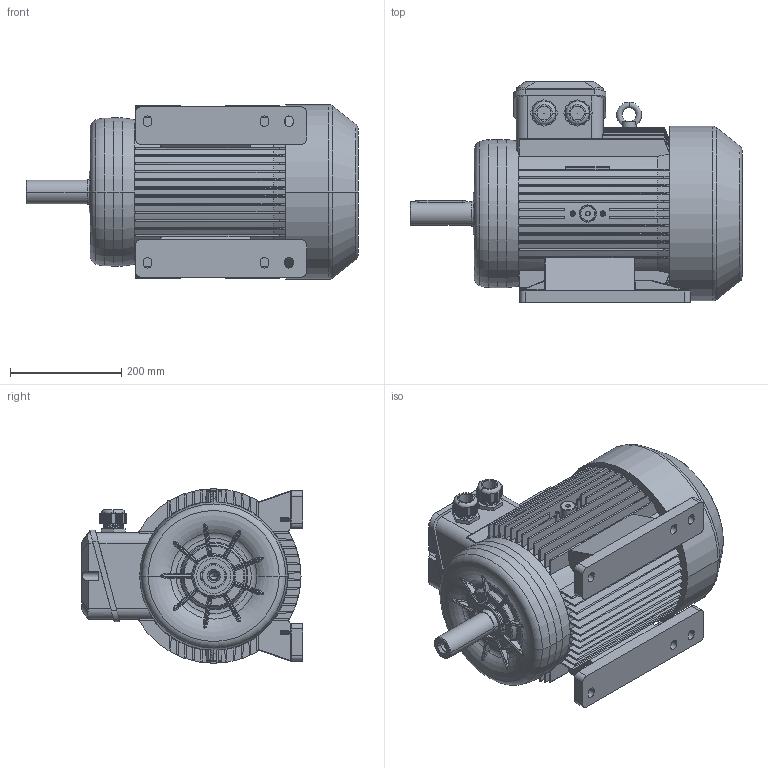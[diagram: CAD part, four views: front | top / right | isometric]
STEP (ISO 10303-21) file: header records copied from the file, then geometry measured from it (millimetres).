
FILE_DESCRIPTION (( 'STEP AP214' ), '1' );
FILE_NAME ('MAP160M4A IM1041.STEP', '2021-01-15T09:53:01', ( '' ), ( '' ), 'SwSTEP 2.0', 'SolidWorks 2018', '' );
FILE_SCHEMA (( 'AUTOMOTIVE_DESIGN' ));
Length unit declared in the file: millimetre
Products named in the file (1): MAP160M4A IM1041
Bounding box: 596 x 398 x 313.5 mm (x, y, z)
Volume: 33119464.4 mm3; surface area: 1500658.9 mm2
Topology: 1 solids, 8 shells, 1833 faces, 4815 edges, 3011 vertices
Faces by surface type: plane 1021, cylinder 326, bspline 202, cone 121, torus 91, sphere 72
Entity records: 76305 total; most frequent: CARTESIAN_POINT 33052, ORIENTED_EDGE 9546, DIRECTION 8302, EDGE_CURVE 4773, VERTEX_POINT 3011, LINE 2838, VECTOR 2838, AXIS2_PLACEMENT_3D 2732
